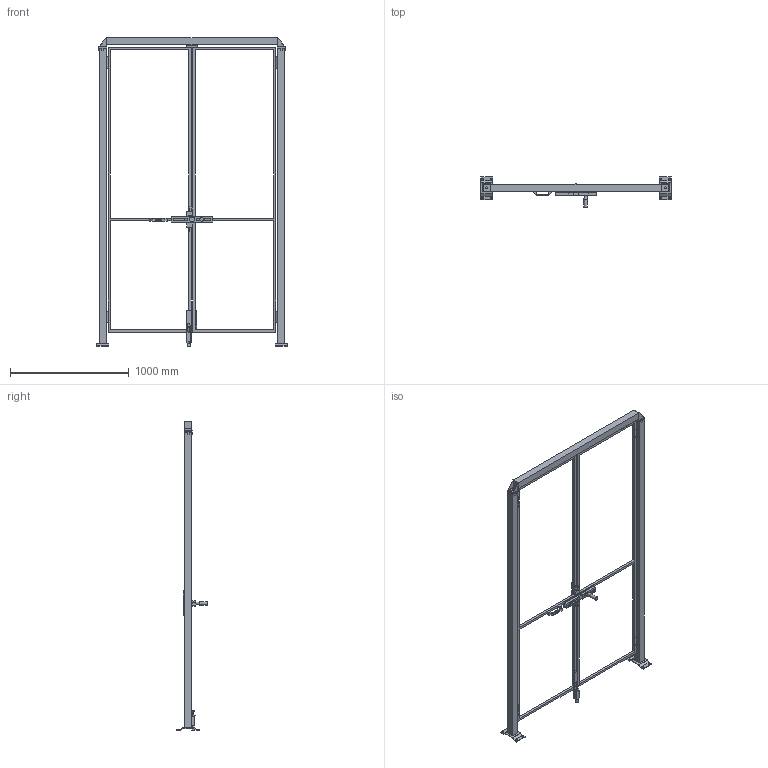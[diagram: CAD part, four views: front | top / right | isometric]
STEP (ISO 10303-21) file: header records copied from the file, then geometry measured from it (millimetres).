
FILE_DESCRIPTION(/* description */ (''),/* implementation_level */ '2;1');
FILE_NAME(/* name */ 'C:\SafeGuarding\ELABORATI\VZOR§DVOUKŘÍDLÉ_2025-02-03-08-27-31.stp',/* time_stamp */ '2025-02-03T08:27:33+01:00',/* author */ ('admin'),/* organization */ (''),/* preprocessor_version */ 'ST-DEVELOPER v18.1',/* originating_system */ 'AutoCAD Mechanical',/* authorisation */ '');
FILE_SCHEMA (('AUTOMOTIVE_DESIGN { 1 0 10303 214 3 1 1 }'));
Length unit declared in the file: millimetre
Products named in the file (5): Product; *U4; DATI_PORTA; P_VFMA.ME60SDU.2520; VFPA.REPE2007002400
Assembly tree (6 placements, depth 2):
  Product
    P_VFMA.ME60SDU.2520  x2
    *U4
    DATI_PORTA
    VFPA.REPE2007002400  x2
Bounding box: 1605 x 255.79 x 2600.5 mm (x, y, z)
Volume: 29859034.6 mm3; surface area: 3218967.4 mm2
Topology: 27 solids, 38 shells, 396 faces, 1294 edges, 1178 vertices
Faces by surface type: plane 352, cylinder 42, cone 2
Full cylindrical faces by diameter (mm): 11 x25, 12 x1, 14 x2, 24 x1, 30 x1
Entity records: 11654 total; most frequent: CARTESIAN_POINT 2413, DIRECTION 1764, ORIENTED_EDGE 1700, EDGE_CURVE 899, LINE 818, VECTOR 818, VERTEX_POINT 635, AXIS2_PLACEMENT_3D 473
